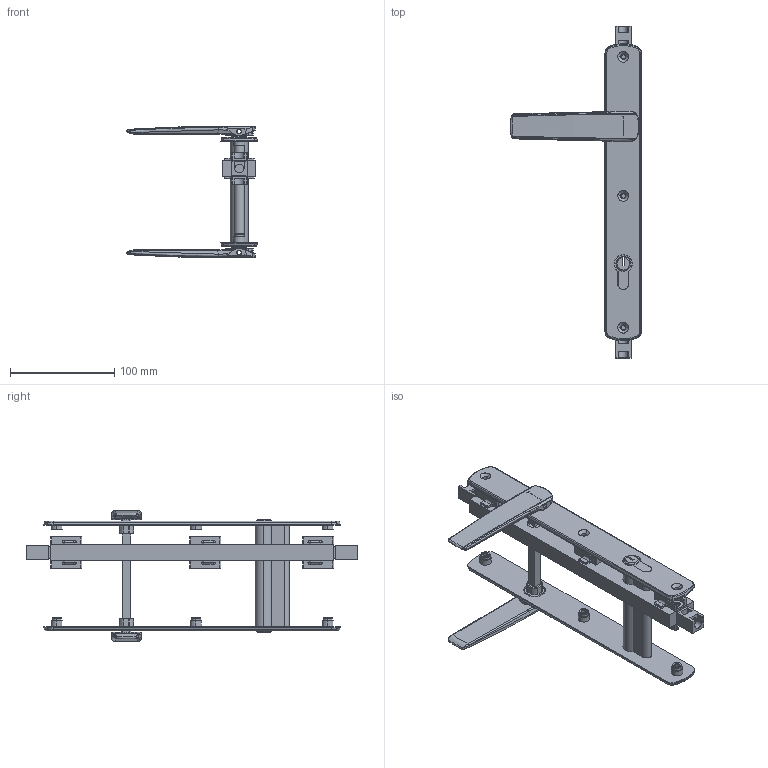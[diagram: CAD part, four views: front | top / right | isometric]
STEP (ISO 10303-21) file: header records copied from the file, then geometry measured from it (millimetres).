
FILE_DESCRIPTION (( 'STEP AP214' ), '1' );
FILE_NAME ('TPL-H-EU-604-A 30Oct2024.STEP', '2024-10-30T03:37:52', ( '' ), ( '' ), 'SwSTEP 2.0', 'SolidWorks 2023', '' );
FILE_SCHEMA (( 'AUTOMOTIVE_DESIGN' ));
Length unit declared in the file: millimetre
Products named in the file (17): Copy of TPL-H-EU-006 29Oct2024^TPL-H-EU-104 30Oct2024_TPL-050-105 Left; Copy of LKC-505 Swing handle zinc - simplified^Copy (2) of TPGen2 handle keyed internal zinc - simplified_TPL-H-EU-104 30Oct2024; TPL-H-EU-604-A 30Oct2024; Copy (2) of TPGen2 handle keyed internal zinc - simplified^TPL-H-EU-104 30Oct2024_Left; Copy of LKC-584 Pivot body zinc - simplified^Copy (2) of TPGen2 handle keyed internal zinc - simplified_TPL-H-EU-104 30Oct2024; Copy (2) of TPLGen2 lock body keyed assembly^TPL-H-EU-104 30Oct2024_Bolts retracted - left; Copy of TPLGen2 push rod - simplified^Copy (2) of TPLGen2 lock body keyed assembly_TPL-H-EU-104 30Oct2024_Female thread M10; Copy of LKC-505 Swing handle zinc - simplified^Copy of TPGen2 handle keyed external zinc - simplified_TPL-H-EU-104 30Oct2024; Copy of LKC-585 Rotator body zinc^Copy of TPGen2 handle keyed external zinc - simplified_TPL-H-EU-104 30Oct2024; Copy of LKC-512 Escutcheon plate keyed internal 285mm long zinc - simplified^Copy (2) of TPGen2 handle keyed internal zinc - simplified_TPL-H-EU-104 30Oct2024; Copy of LKC-584 Pivot body zinc - simplified^Copy of TPGen2 handle keyed external zinc - simplified_TPL-H-EU-104 30Oct2024; Copy of TPLGen2 lock body keyed^Copy (2) of TPLGen2 lock body keyed assembly_TPL-H-EU-104 30Oct2024_Left; Copy of TPL-H-APC-515 04Oct2024^TPL-H-EU-104 30Oct2024; Copy of TPGen2 handle keyed external zinc - simplified^TPL-H-EU-104 30Oct2024_Right; Copy of LKC-585 Rotator body zinc^Copy (2) of TPGen2 handle keyed internal zinc - simplified_TPL-H-EU-104 30Oct2024; Copy of LKC-514 Escutcheon plate keyed external 285mm long zinc - simplified^Copy of TPGen2 handle keyed external zinc - simplified_TPL-H-EU-104 30Oct2024; Copy of LKC-586 Spindle square 8mm with M4 hole^Copy (2) of TPGen2 handle keyed internal zinc - simplified_TPL-H-EU-104 30Oct2024_100mm
Assembly tree (22 placements, depth 3):
  TPL-H-EU-604-A 30Oct2024
    Copy (2) of TPLGen2 lock body keyed assembly^TPL-H-EU-104 30Oct2024_Bolts retracted - left
      Copy of TPLGen2 lock body keyed^Copy (2) of TPLGen2 lock body keyed assembly_TPL-H-EU-104 30Oct2024_Left
      Copy of TPLGen2 push rod - simplified^Copy (2) of TPLGen2 lock body keyed assembly_TPL-H-EU-104 30Oct2024_Female thread M10  x2
    Copy (2) of TPGen2 handle keyed internal zinc - simplified^TPL-H-EU-104 30Oct2024_Left
      Copy of LKC-512 Escutcheon plate keyed internal 285mm long zinc - simplified^Copy (2) of TPGen2 handle keyed internal zinc - simplified_TPL-H-EU-104 30Oct2024
      Copy of LKC-505 Swing handle zinc - simplified^Copy (2) of TPGen2 handle keyed internal zinc - simplified_TPL-H-EU-104 30Oct2024
      Copy of LKC-585 Rotator body zinc^Copy (2) of TPGen2 handle keyed internal zinc - simplified_TPL-H-EU-104 30Oct2024
      Copy of LKC-586 Spindle square 8mm with M4 hole^Copy (2) of TPGen2 handle keyed internal zinc - simplified_TPL-H-EU-104 30Oct2024_100mm
      Copy of LKC-584 Pivot body zinc - simplified^Copy (2) of TPGen2 handle keyed internal zinc - simplified_TPL-H-EU-104 30Oct2024
    Copy of TPGen2 handle keyed external zinc - simplified^TPL-H-EU-104 30Oct2024_Right
      Copy of LKC-514 Escutcheon plate keyed external 285mm long zinc - simplified^Copy of TPGen2 handle keyed external zinc - simplified_TPL-H-EU-104 30Oct2024
      Copy of LKC-505 Swing handle zinc - simplified^Copy of TPGen2 handle keyed external zinc - simplified_TPL-H-EU-104 30Oct2024
      Copy of LKC-585 Rotator body zinc^Copy of TPGen2 handle keyed external zinc - simplified_TPL-H-EU-104 30Oct2024
      Copy of LKC-584 Pivot body zinc - simplified^Copy of TPGen2 handle keyed external zinc - simplified_TPL-H-EU-104 30Oct2024
    Copy of TPL-H-EU-006 29Oct2024^TPL-H-EU-104 30Oct2024_TPL-050-105 Left
    Copy of TPL-H-APC-515 04Oct2024^TPL-H-EU-104 30Oct2024  x6
Bounding box: 125.62 x 318.6 x 125.92 mm (x, y, z)
Volume: 308625.4 mm3; surface area: 136798.5 mm2
Topology: 19 solids, 19 shells, 2041 faces, 4936 edges, 2970 vertices
Faces by surface type: cylinder 623, plane 560, bspline 448, torus 224, cone 128, sphere 58
Entity records: 48999 total; most frequent: CARTESIAN_POINT 22192, ORIENTED_EDGE 5904, DIRECTION 5044, EDGE_CURVE 2952, AXIS2_PLACEMENT_3D 2050, VERTEX_POINT 1770, EDGE_LOOP 1370, ADVANCED_FACE 1251
